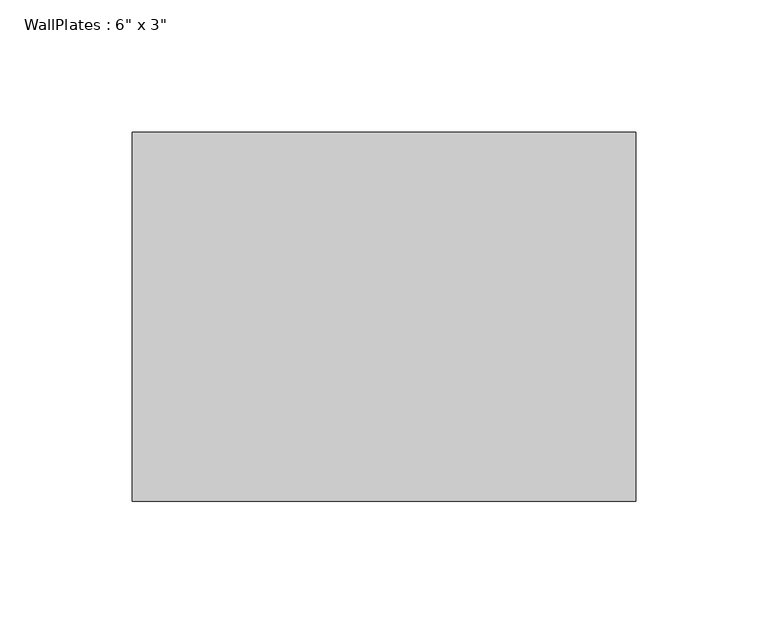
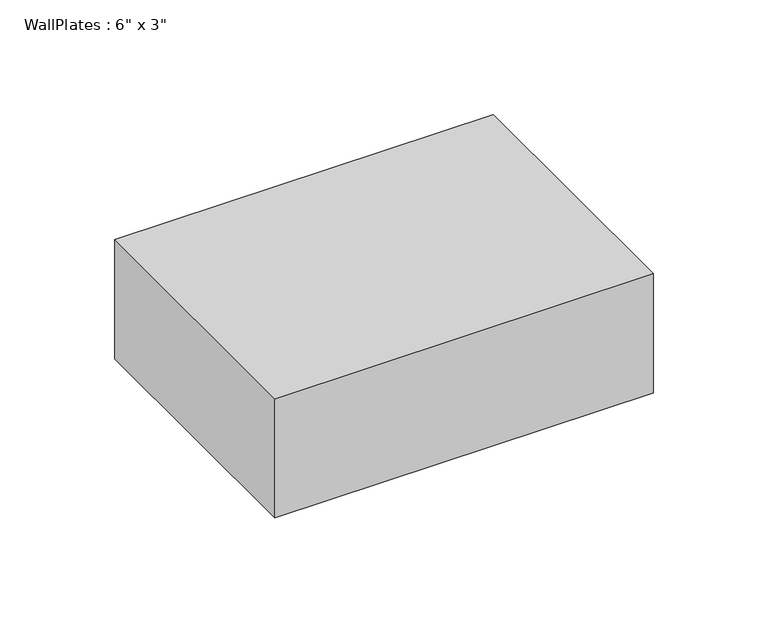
"""IFC4 building model written with IfcOpenShell, lengths in millimetres: beam geometry."""

from ifc_helpers import new_model, si_unit, frame, origin, place, context, project, spatial, polyline, outline, extrude, source, transform, mapped, element, save


def beam_a4c1aa83(model_context):
    return source(origin(), model_context, "Body", "SweptSolid", [
        extrude(outline(polyline([(-95.255, -69.85), (-95.255, 69.85), (95.255, 69.85), (95.255, -69.85), (-95.255, -69.85)])), frame((0.0, 0.0, -31.75), z_axis=(0.0, 0.0, 1.0), x_axis=(1.0, 0.0, 0.0)), (0.0, 0.0, 1.0), 63.5),
    ])


if __name__ == "__main__":
    model = new_model("IFC4")
    model_context = context("Model", 3, world=origin())
    ifc_project = project(units=[si_unit("LENGTHUNIT", "METRE", prefix="MILLI")], contexts=[model_context])
    site = spatial("IfcSite", under=ifc_project)
    building = spatial("IfcBuilding", under=site)
    placement = place(None, origin())
    beam_shape = beam_a4c1aa83(model_context)
    element("IfcBeam", 1, ObjectType="WallPlates : 6\" x 3\"", at=placement, inside=building, context=model_context, shape_type="MappedRepresentation", body=[
        mapped(beam_shape, transform((0.0, 0.0, 0.0), x_axis=(1.0, 0.0, 0.0), y_axis=(0.0, 1.0, 0.0), z_axis=(0.0, 0.0, 1.0))),
    ])
    save(model, "model.ifc")
